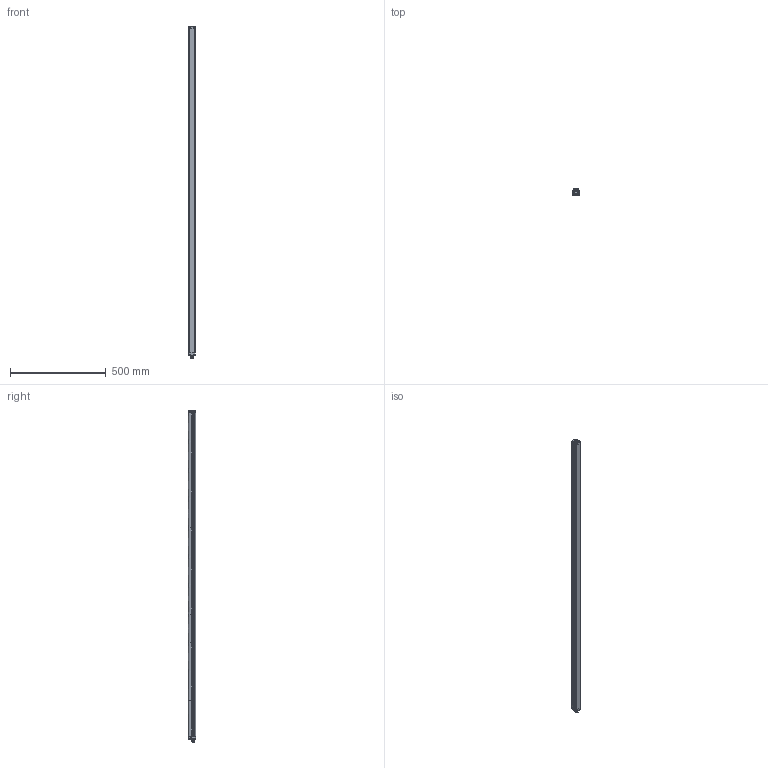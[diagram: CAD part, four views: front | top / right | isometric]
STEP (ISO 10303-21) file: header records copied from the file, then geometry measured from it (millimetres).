
FILE_DESCRIPTION(/* description */ (''),/* implementation_level */ '2;1');
FILE_NAME(/* name */ 'DSD-0179.stp',/* time_stamp */ '2020-07-16T15:59:42+02:00',/* author */ (''),/* organization */ (''),/* preprocessor_version */ 'ST-DEVELOPER v16.7',/* originating_system */ 'SIEMENS PLM Software NX 12.0',/* authorisation */ '');
FILE_SCHEMA (('AUTOMOTIVE_DESIGN { 1 0 10303 214 3 1 1 1 }'));
Products named in the file (1): AP025833_00_1-DSD-0179
Bounding box: 32.3 x 36.9 x 1732.94 mm (x, y, z)
Volume: 1745338.2 mm3; surface area: 402435.5 mm2
Topology: 11 solids, 813 shells, 1678 faces, 5312 edges, 4187 vertices
Faces by surface type: cylinder 614, bspline 586, plane 384, sphere 51, cone 35, torus 8
Full cylindrical faces by diameter (mm): 0.8 x16, 1.5 x6, 2 x6, 2.05 x4, 2.5 x12, 2.7 x10, 2.9 x6, 3 x12, 3.4 x6, 3.6 x12, 4.7 x2, 5 x10, 5.3 x2, 7.5 x1, 8 x1, 8.3 x1, 9.3 x1, 9.5 x1, 9.55 x1, 10.5 x1, 11 x2, 12 x12, 13.97 x1, 14.3 x1, 16 x2
Entity records: 87500 total; most frequent: CARTESIAN_POINT 37469, ORIENTED_EDGE 6983, DIRECTION 6128, EDGE_CURVE 5025, VERTEX_POINT 4179, AXIS2_PLACEMENT_3D 2405, EDGE_LOOP 1986, PRESENTATION_STYLE_ASSIGNMENT 1681
